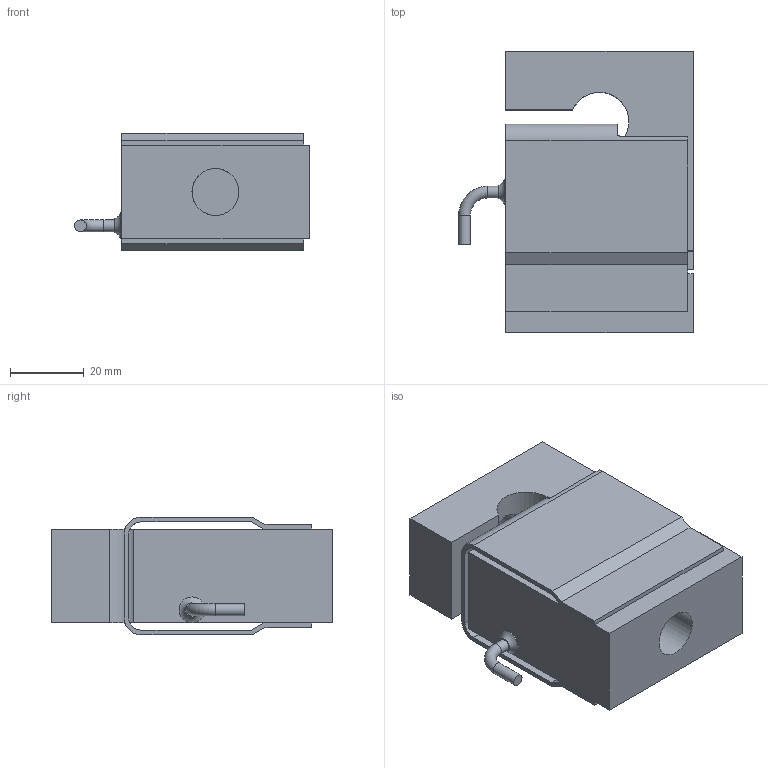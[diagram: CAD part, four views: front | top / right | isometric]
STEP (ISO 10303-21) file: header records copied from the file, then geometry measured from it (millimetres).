
FILE_DESCRIPTION (( 'STEP AP203' ), '1' );
FILE_NAME ('Interface SM-1000.STEP', '2015-04-28T14:49:53', ( '' ), ( '' ), 'SwSTEP 2.0', 'SolidWorks 2013', '' );
FILE_SCHEMA (( 'CONFIG_CONTROL_DESIGN' ));
Length unit declared in the file: inch
Products named in the file (1): Interface SM-1000
Bounding box: 63.5 x 76.2 x 31.75 mm (x, y, z)
Volume: 90804 mm3; surface area: 28538.8 mm2
Topology: 1 solids, 1 shells, 60 faces, 161 edges, 104 vertices
Faces by surface type: plane 45, cylinder 13, torus 2
Full cylindrical faces by diameter (mm): 3.175 x2, 6.963 x1, 12.7 x2
Entity records: 2113 total; most frequent: CARTESIAN_POINT 543, ORIENTED_EDGE 306, DIRECTION 296, EDGE_CURVE 153, VECTOR 120, LINE 120, VERTEX_POINT 103, AXIS2_PLACEMENT_3D 88
